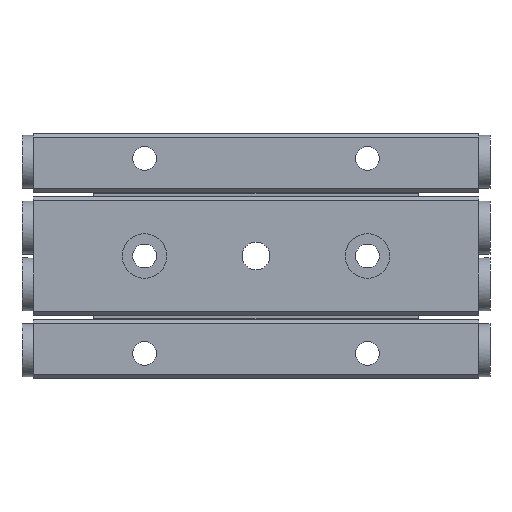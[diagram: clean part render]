
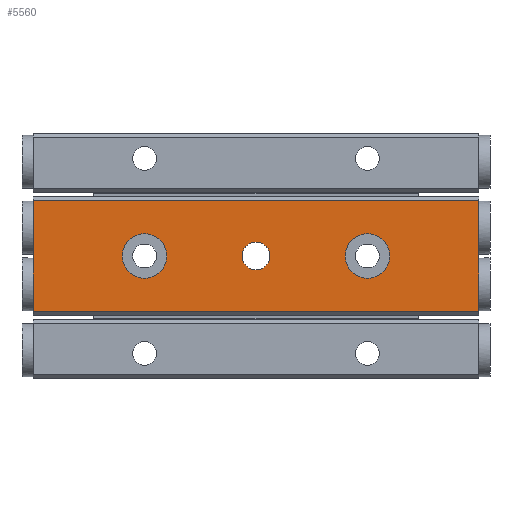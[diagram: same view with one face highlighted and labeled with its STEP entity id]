
A CAD part, top view. The second image highlights one B-rep face of the part: STEP entity #5560.
In plain terms, the highlighted planar face has unit normal (0, 0, 1) as drawn and (0, -1, 0) by its records, which use the part's own axes.
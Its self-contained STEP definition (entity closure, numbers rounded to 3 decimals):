
#342=CIRCLE('',#7230,2.5);
#343=CIRCLE('',#7231,4.);
#344=CIRCLE('',#7232,4.);
#554=ORIENTED_EDGE('',*,*,#2329,.F.);
#555=ORIENTED_EDGE('',*,*,#2330,.F.);
#556=ORIENTED_EDGE('',*,*,#2331,.F.);
#557=ORIENTED_EDGE('',*,*,#2332,.T.);
#558=ORIENTED_EDGE('',*,*,#2333,.F.);
#559=ORIENTED_EDGE('',*,*,#2334,.F.);
#560=ORIENTED_EDGE('',*,*,#2327,.T.);
#2327=EDGE_CURVE('',#3215,#3214,#3809,.T.);
#2329=EDGE_CURVE('',#3216,#3216,#342,.T.);
#2330=EDGE_CURVE('',#3217,#3217,#343,.T.);
#2331=EDGE_CURVE('',#3218,#3218,#344,.T.);
#2332=EDGE_CURVE('',#3214,#3219,#3811,.T.);
#2333=EDGE_CURVE('',#3220,#3219,#3812,.T.);
#2334=EDGE_CURVE('',#3215,#3220,#3813,.T.);
#3214=VERTEX_POINT('',#9455);
#3215=VERTEX_POINT('',#9457);
#3216=VERTEX_POINT('',#9461);
#3217=VERTEX_POINT('',#9463);
#3218=VERTEX_POINT('',#9465);
#3219=VERTEX_POINT('',#9467);
#3220=VERTEX_POINT('',#9469);
#3809=LINE('',#9456,#4271);
#3811=LINE('',#9466,#4273);
#3812=LINE('',#9468,#4274);
#3813=LINE('',#9470,#4275);
#4271=VECTOR('',#7822,1000.);
#4273=VECTOR('',#7832,1000.);
#4274=VECTOR('',#7833,1000.);
#4275=VECTOR('',#7834,1000.);
#4730=EDGE_LOOP('',(#554));
#4731=EDGE_LOOP('',(#555));
#4732=EDGE_LOOP('',(#556));
#4733=EDGE_LOOP('',(#557,#558,#559,#560));
#5050=FACE_BOUND('',#4730,.T.);
#5051=FACE_BOUND('',#4731,.T.);
#5052=FACE_BOUND('',#4732,.T.);
#5053=FACE_BOUND('',#4733,.T.);
#5370=PLANE('',#7229);
#5560=ADVANCED_FACE('',(#5050,#5051,#5052,#5053),#5370,.F.);
#7229=AXIS2_PLACEMENT_3D('',#9459,#7824,#7825);
#7230=AXIS2_PLACEMENT_3D('',#9460,#7826,#7827);
#7231=AXIS2_PLACEMENT_3D('',#9462,#7828,#7829);
#7232=AXIS2_PLACEMENT_3D('',#9464,#7830,#7831);
#7822=DIRECTION('',(-1.,0.,0.));
#7824=DIRECTION('',(0.,1.,0.));
#7825=DIRECTION('',(0.,0.,1.));
#7826=DIRECTION('',(0.,-1.,0.));
#7827=DIRECTION('',(0.,0.,-1.));
#7828=DIRECTION('',(0.,-1.,0.));
#7829=DIRECTION('',(0.,0.,-1.));
#7830=DIRECTION('',(0.,-1.,0.));
#7831=DIRECTION('',(0.,0.,-1.));
#7832=DIRECTION('',(0.,0.,-1.));
#7833=DIRECTION('',(-1.,0.,0.));
#7834=DIRECTION('',(0.,0.,-1.));
#9455=CARTESIAN_POINT('',(2.,0.,9.9));
#9456=CARTESIAN_POINT('',(82.,0.,9.9));
#9457=CARTESIAN_POINT('',(82.,0.,9.9));
#9459=CARTESIAN_POINT('',(82.,0.,9.9));
#9460=CARTESIAN_POINT('',(42.,0.,0.));
#9461=CARTESIAN_POINT('',(42.,0.,-2.5));
#9462=CARTESIAN_POINT('',(62.,0.,0.));
#9463=CARTESIAN_POINT('',(62.,0.,-4.));
#9464=CARTESIAN_POINT('',(22.,0.,0.));
#9465=CARTESIAN_POINT('',(22.,0.,-4.));
#9466=CARTESIAN_POINT('',(2.,0.,9.9));
#9467=CARTESIAN_POINT('',(2.,0.,-9.9));
#9468=CARTESIAN_POINT('',(82.,0.,-9.9));
#9469=CARTESIAN_POINT('',(82.,0.,-9.9));
#9470=CARTESIAN_POINT('',(82.,0.,9.9));
